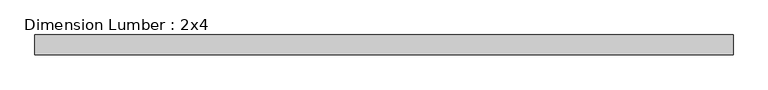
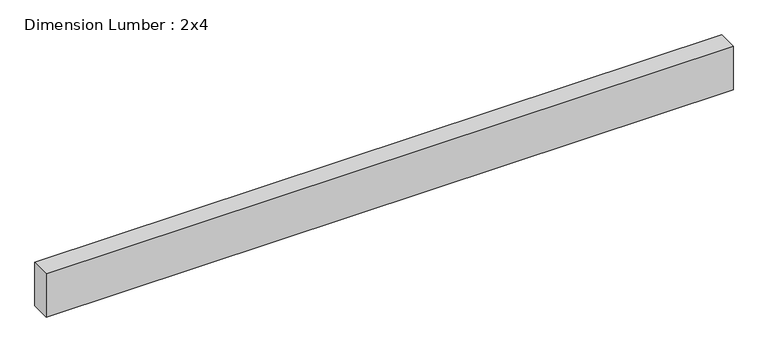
"""IFC4 building model written with IfcOpenShell, lengths in millimetres: beam geometry, Dimension Lumber : 2x4."""

from ifc_helpers import new_model, si_unit, frame, origin, place, context, project, spatial, polyline, outline, extrude, source, transform, mapped, element, save


def dimension_lumber_2x4_9f64a9ea(model_context):
    return source(origin(), model_context, "Body", "SweptSolid", [
        extrude(outline(polyline([(665.4270833, 19.05), (665.4270833, -19.05), (-665.4270833, -19.05), (-665.4270833, 19.05), (665.4270833, 19.05)])), frame((0.0, 0.0, -44.45), z_axis=(0.0, 0.0, 1.0), x_axis=(1.0, 0.0, 0.0)), (0.0, 0.0, 1.0), 88.9),
    ])


if __name__ == "__main__":
    model = new_model("IFC4")
    model_context = context("Model", 3, world=origin())
    ifc_project = project(units=[si_unit("LENGTHUNIT", "METRE", prefix="MILLI")], contexts=[model_context])
    site = spatial("IfcSite", under=ifc_project)
    building = spatial("IfcBuilding", under=site)
    placement = place(None, origin())
    dimension_lumber_2x4_shape = dimension_lumber_2x4_9f64a9ea(model_context)
    element("IfcBeam", 1, ObjectType="Dimension Lumber : 2x4", at=placement, inside=building, context=model_context, shape_type="MappedRepresentation", body=[
        mapped(dimension_lumber_2x4_shape, transform((0.0, 0.0, 0.0), x_axis=(1.0, 0.0, 0.0), y_axis=(0.0, 1.0, 0.0), z_axis=(0.0, 0.0, 1.0))),
    ])
    save(model, "model.ifc")
